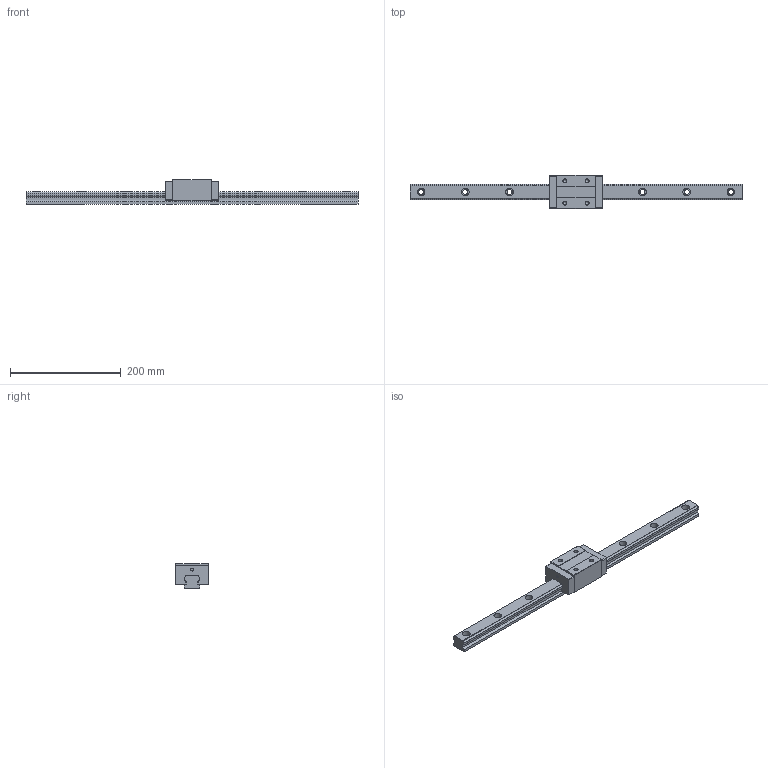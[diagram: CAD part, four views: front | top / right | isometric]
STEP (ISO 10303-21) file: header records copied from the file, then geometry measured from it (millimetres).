
FILE_DESCRIPTION(/* description */ (''),/* implementation_level */ '2;1');
FILE_NAME(/* name */ 'TRH30VN-XN.stp',/* time_stamp */ '2017-10-25T15:06:30+08:00',/* author */ (''),/* organization */ (''),/* preprocessor_version */ 'ST-DEVELOPER v11',/* originating_system */ 'SIEMENS UGS NX 6.0',/* authorisation */ '');
FILE_SCHEMA (('AUTOMOTIVE_DESIGN { 1 0 10303 214 1 1 1 1 }'));
Length unit declared in the file: millimetre
Products named in the file (1): TRH30VN-XN
Bounding box: 600 x 60 x 45 mm (x, y, z)
Volume: 497513.5 mm3; surface area: 96944.7 mm2
Topology: 2 solids, 2 shells, 124 faces, 318 edges, 208 vertices
Faces by surface type: plane 74, cylinder 42, cone 8
Full cylindrical faces by diameter (mm): 5 x2, 6.75 x4, 9 x8, 14 x8
Entity records: 4070 total; most frequent: DIRECTION 610, CARTESIAN_POINT 593, ORIENTED_EDGE 544, EDGE_CURVE 272, AXIS2_PLACEMENT_3D 213, VERTEX_POINT 196, LINE 184, VECTOR 184
